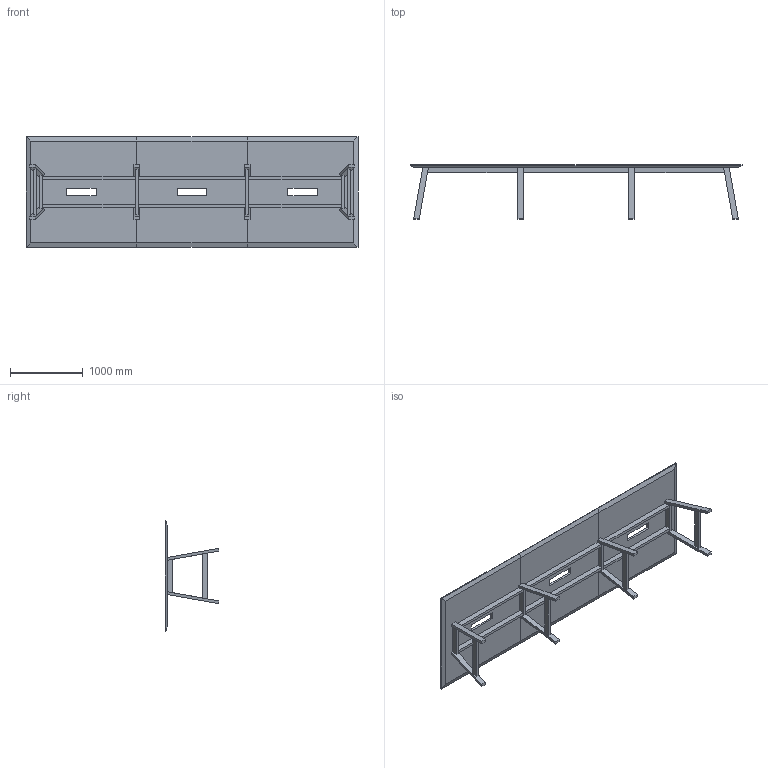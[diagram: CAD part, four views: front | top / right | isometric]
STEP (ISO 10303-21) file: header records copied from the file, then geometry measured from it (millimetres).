
FILE_DESCRIPTION(/* description */ ('','CAx-IF Rec.Pracs.---Representation and Presentation of Product Manufacturing Information (PMI)---4.0---2014-10-13'),/* implementation_level */ '2;1');
FILE_NAME(/* name */ 'TABLE_GRADIENT 6.stp',/* time_stamp */ '2024-12-07T16:37:39-05:00',/* author */ ('mbowman'),/* organization */ (''),/* preprocessor_version */ 'ST-DEVELOPER v19.2',/* originating_system */ 'Autodesk Inventor 2023',/* authorisation */ '');
FILE_SCHEMA (('AP242_MANAGED_MODEL_BASED_3D_ENGINEERING_MIM_LF { 1 0 10303 442 1 1 4 }'));
Length unit declared in the file: inch
Products named in the file (2): GRADIENT^TABLE 6A_CANTED LEGS-VERTICAL STRETCHERS (NO MONITORS); GRADIENT^TABLE 6A_CANTED LEGS-VERTICAL STRETCHERS
Assembly tree (1 placements, depth 2):
  GRADIENT^TABLE 6A_CANTED LEGS-VERTICAL STRETCHERS (NO MONITORS)
    GRADIENT^TABLE 6A_CANTED LEGS-VERTICAL STRETCHERS
Bounding box: 4572 x 742.95 x 1524 mm (x, y, z)
Volume: 261864947.9 mm3; surface area: 18323121.6 mm2
Topology: 13 solids, 13 shells, 146 faces, 356 edges, 236 vertices
Faces by surface type: plane 146
Entity records: 4795 total; most frequent: CARTESIAN_POINT 961, ORIENTED_EDGE 712, DIRECTION 662, LINE 356, VECTOR 356, EDGE_CURVE 356, VERTEX_POINT 236, EDGE_LOOP 160
